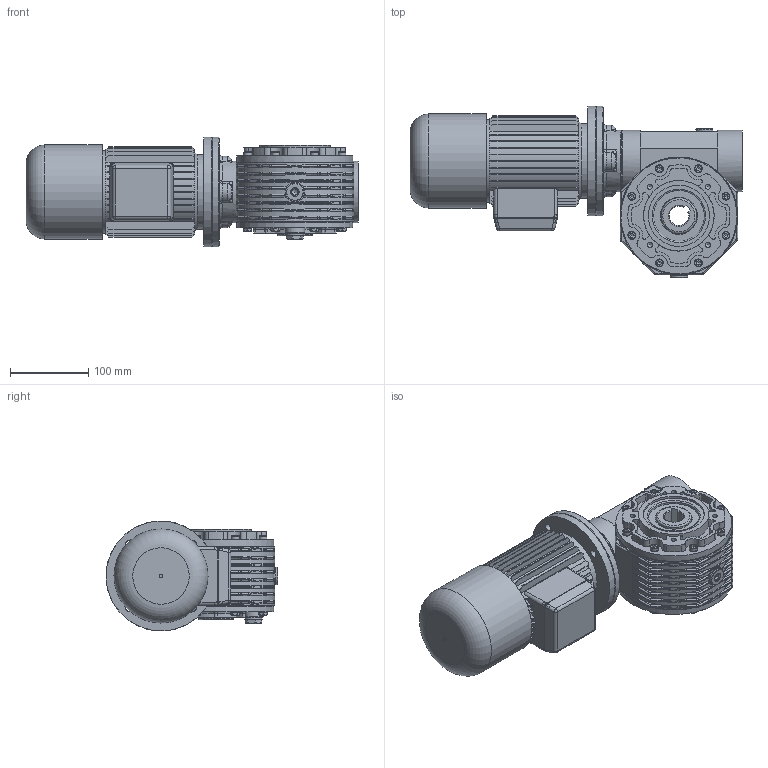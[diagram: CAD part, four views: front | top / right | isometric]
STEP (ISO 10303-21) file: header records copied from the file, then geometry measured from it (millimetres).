
FILE_DESCRIPTION((''),'2;1');
FILE_NAME('Y:\Archivi Inventor\Prog_01\GRAND_30\Figurini\MRV30 sito\63 Autofrenante\MRV30_FP1_63_B5.stp','2013-02-06T09:03:27',('tech3'),(''),'Autodesk Inventor 2013','Autodesk Inventor 2013','');
FILE_SCHEMA(('AUTOMOTIVE_DESIGN { 1 0 10303 214 1 1 1 1 }'));
Length unit declared in the file: millimetre
Products named in the file (18): MRV30_63_B5; MRV30; 0103001-A2 fig; 0103008.A1 fig F=25; PARAOLIO 45x65x10; RCA_52x7; Guarnizione 3_8 GAS; Tappo 3_8 GAS_esagn_incsst; 0103029; DIN EN 24017 M6 x 20; 0103028; 0103002-A0 fig; DIN EN ISO 4762 M6 x 16; 0103004.A2 fig; Tappo3_8 GAS; UNI 5931 M 8 x  25; 0103006; motori B5 brake 63
Assembly tree (39 placements, depth 3):
  MRV30_63_B5
    MRV30
      0103001-A2 fig
      0103008.A1 fig F=25
      PARAOLIO 45x65x10  x2
      RCA_52x7
      Guarnizione 3_8 GAS  x3
      Tappo 3_8 GAS_esagn_incsst  x2
      0103029  x2
      DIN EN 24017 M6 x 20  x8
      0103028
      0103002-A0 fig
      DIN EN ISO 4762 M6 x 16  x8
      0103004.A2 fig
      Tappo3_8 GAS
      UNI 5931 M 8 x  25  x4
    0103006
    motori B5 brake 63
Bounding box: 423.4 x 219.07 x 140 mm (x, y, z)
Volume: 3887360 mm3; surface area: 638029.5 mm2
Topology: 39 solids, 42 shells, 2038 faces, 4913 edges, 2942 vertices
Faces by surface type: plane 894, cylinder 671, torus 185, bspline 146, cone 118, sphere 24
Full cylindrical faces by diameter (mm): 2 x2, 4.917 x16, 5 x1, 6 x16, 6.5 x32, 6.647 x8, 8 x6, 8.5 x8, 8.88 x8, 9 x4, 9.5 x12, 10 x8, 11 x9, 13 x4, 13.046 x1, 14.95 x3, 16.3 x3, 16.5 x2, 22 x6, 25 x1, 43 x1, 45 x6, 45.76 x1, 50.881 x2, 52 x6, 55 x1, 60.5 x2, 65 x4, 77 x1, 78 x2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
Entity records: 57716 total; most frequent: CARTESIAN_POINT 18095, DIRECTION 8404, ORIENTED_EDGE 7714, EDGE_CURVE 3857, AXIS2_PLACEMENT_3D 3334, VERTEX_POINT 2454, EDGE_LOOP 2072, VECTOR 1736
